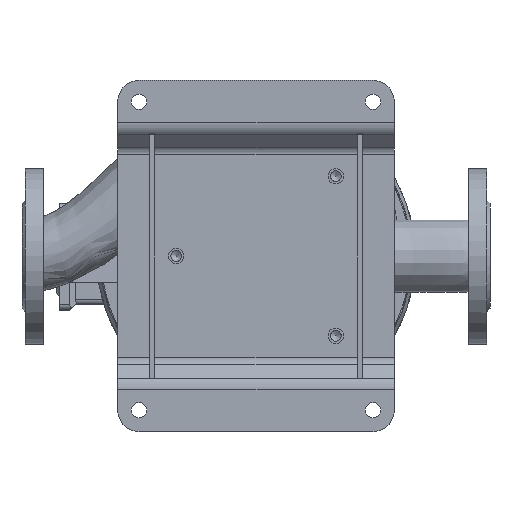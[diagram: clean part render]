
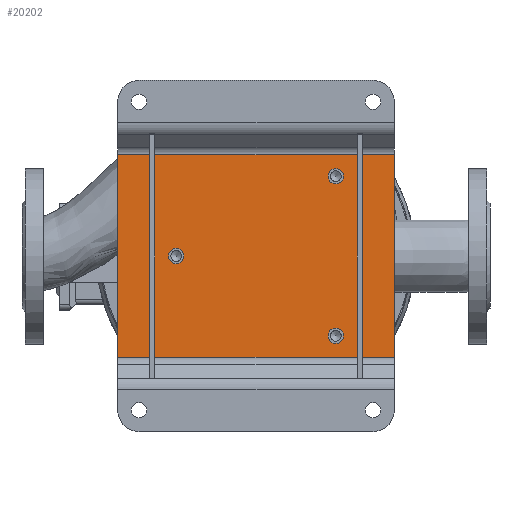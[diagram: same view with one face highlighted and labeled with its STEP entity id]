
A CAD part, top view. The second image highlights one B-rep face of the part: STEP entity #20202.
In plain terms, the highlighted planar face has unit normal (0, 0, 1) as drawn and (0, -1, 0) by its records, which use the part's own axes.
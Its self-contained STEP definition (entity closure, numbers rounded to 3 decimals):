
#1255 = ORIENTED_EDGE ( 'NONE', *, *, #17947, .F. ) ;
#1542 = CARTESIAN_POINT ( 'NONE',  ( -95., -5., 130. ) ) ;
#1969 = AXIS2_PLACEMENT_3D ( 'NONE', #18444, #15141, #14644 ) ;
#2420 = VERTEX_POINT ( 'NONE', #47319 ) ;
#3287 = LINE ( 'NONE', #33849, #27756 ) ;
#3389 = CARTESIAN_POINT ( 'NONE',  ( -95., -5., -130. ) ) ;
#3523 = DIRECTION ( 'NONE',  ( 1., 0., 0. ) ) ;
#3603 = CARTESIAN_POINT ( 'NONE',  ( -95., -5., -130. ) ) ;
#4099 = PLANE ( 'NONE',  #14797 ) ;
#4585 = DIRECTION ( 'NONE',  ( 0., -1., 0. ) ) ;
#4834 = EDGE_CURVE ( 'NONE', #30251, #30251, #21070, .T. ) ;
#7317 = EDGE_CURVE ( 'NONE', #44946, #37826, #19160, .T. ) ;
#7487 = DIRECTION ( 'NONE',  ( 0., -1., 0. ) ) ;
#7840 = DIRECTION ( 'NONE',  ( -1., 0., 0. ) ) ;
#8339 = CARTESIAN_POINT ( 'NONE',  ( 0., -5., 0. ) ) ;
#8443 = ORIENTED_EDGE ( 'NONE', *, *, #23428, .F. ) ;
#9870 = CARTESIAN_POINT ( 'NONE',  ( 0., -5., -82.25 ) ) ;
#10808 = CARTESIAN_POINT ( 'NONE',  ( 75., -5., 75. ) ) ;
#14644 = DIRECTION ( 'NONE',  ( 0., 0., -1. ) ) ;
#14797 = AXIS2_PLACEMENT_3D ( 'NONE', #8339, #4585, #42900 ) ;
#14926 = VERTEX_POINT ( 'NONE', #24596 ) ;
#15141 = DIRECTION ( 'NONE',  ( 0., -1., 0. ) ) ;
#15571 = VECTOR ( 'NONE', #30657, 1000. ) ;
#16594 = FACE_BOUND ( 'NONE', #23586, .T. ) ;
#17166 = CIRCLE ( 'NONE', #1969, 7.25 ) ;
#17886 = VERTEX_POINT ( 'NONE', #9870 ) ;
#17947 = EDGE_CURVE ( 'NONE', #14926, #2420, #41762, .T. ) ;
#18444 = CARTESIAN_POINT ( 'NONE',  ( -75., -5., 75. ) ) ;
#18800 = CARTESIAN_POINT ( 'NONE',  ( 0., -5., -75. ) ) ;
#19160 = LINE ( 'NONE', #45893, #15571 ) ;
#20141 = FACE_BOUND ( 'NONE', #49368, .T. ) ;
#20202 = ADVANCED_FACE ( 'NONE', ( #35139, #20141, #16594, #38383 ), #4099, .T. ) ;
#20895 = ORIENTED_EDGE ( 'NONE', *, *, #7317, .F. ) ;
#21070 = CIRCLE ( 'NONE', #33850, 7.25 ) ;
#23428 = EDGE_CURVE ( 'NONE', #33228, #33228, #17166, .T. ) ;
#23586 = EDGE_LOOP ( 'NONE', ( #8443 ) ) ;
#23896 = ORIENTED_EDGE ( 'NONE', *, *, #35855, .F. ) ;
#24596 = CARTESIAN_POINT ( 'NONE',  ( 95., -5., 130. ) ) ;
#26087 = DIRECTION ( 'NONE',  ( 0., -1., 0. ) ) ;
#27756 = VECTOR ( 'NONE', #3523, 1000. ) ;
#28669 = ORIENTED_EDGE ( 'NONE', *, *, #41014, .F. ) ;
#30251 = VERTEX_POINT ( 'NONE', #45491 ) ;
#30657 = DIRECTION ( 'NONE',  ( 0., 0., 1. ) ) ;
#30962 = VECTOR ( 'NONE', #48789, 1000. ) ;
#31672 = EDGE_LOOP ( 'NONE', ( #46764 ) ) ;
#33228 = VERTEX_POINT ( 'NONE', #44965 ) ;
#33850 = AXIS2_PLACEMENT_3D ( 'NONE', #10808, #26087, #34597 ) ;
#33849 = CARTESIAN_POINT ( 'NONE',  ( -95., -5., 130. ) ) ;
#34597 = DIRECTION ( 'NONE',  ( 0., 0., -1. ) ) ;
#35139 = FACE_BOUND ( 'NONE', #31672, .T. ) ;
#35855 = EDGE_CURVE ( 'NONE', #37826, #14926, #3287, .T. ) ;
#37826 = VERTEX_POINT ( 'NONE', #1542 ) ;
#37999 = CARTESIAN_POINT ( 'NONE',  ( 95., -5., 130. ) ) ;
#38383 = FACE_OUTER_BOUND ( 'NONE', #47754, .T. ) ;
#41014 = EDGE_CURVE ( 'NONE', #2420, #44946, #42160, .T. ) ;
#41762 = LINE ( 'NONE', #37999, #30962 ) ;
#42160 = LINE ( 'NONE', #3603, #45517 ) ;
#42900 = DIRECTION ( 'NONE',  ( 0., 0., -1. ) ) ;
#43193 = ORIENTED_EDGE ( 'NONE', *, *, #49244, .F. ) ;
#44946 = VERTEX_POINT ( 'NONE', #3389 ) ;
#44965 = CARTESIAN_POINT ( 'NONE',  ( -75., -5., 67.75 ) ) ;
#45491 = CARTESIAN_POINT ( 'NONE',  ( 75., -5., 67.75 ) ) ;
#45517 = VECTOR ( 'NONE', #7840, 1000. ) ;
#45893 = CARTESIAN_POINT ( 'NONE',  ( -95., -5., 130. ) ) ;
#46275 = DIRECTION ( 'NONE',  ( 0., 0., -1. ) ) ;
#46764 = ORIENTED_EDGE ( 'NONE', *, *, #4834, .F. ) ;
#47319 = CARTESIAN_POINT ( 'NONE',  ( 95., -5., -130. ) ) ;
#47754 = EDGE_LOOP ( 'NONE', ( #1255, #23896, #20895, #28669 ) ) ;
#48239 = CIRCLE ( 'NONE', #49019, 7.25 ) ;
#48789 = DIRECTION ( 'NONE',  ( 0., 0., -1. ) ) ;
#49019 = AXIS2_PLACEMENT_3D ( 'NONE', #18800, #7487, #46275 ) ;
#49244 = EDGE_CURVE ( 'NONE', #17886, #17886, #48239, .T. ) ;
#49368 = EDGE_LOOP ( 'NONE', ( #43193 ) ) ;
